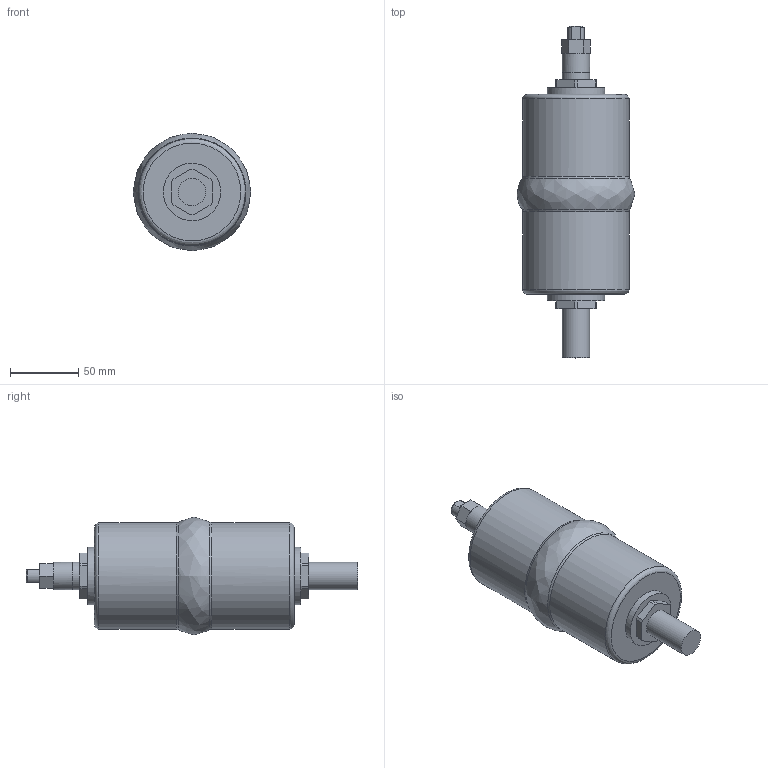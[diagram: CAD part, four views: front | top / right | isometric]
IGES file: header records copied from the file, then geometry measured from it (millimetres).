
Global section: file name: SW4-74mm; native system: Autodesk Inventor 2020; preprocessor: unknown; date: 20210423.112736; units: millimetre
Bounding box: 85.99 x 243.05 x 86 mm (x, y, z)
Volume: 766510.8 mm3; surface area: 56823.4 mm2
Topology: 4 solids, 4 shells, 70 faces, 184 edges, 128 vertices
Faces by surface type: bspline 70
